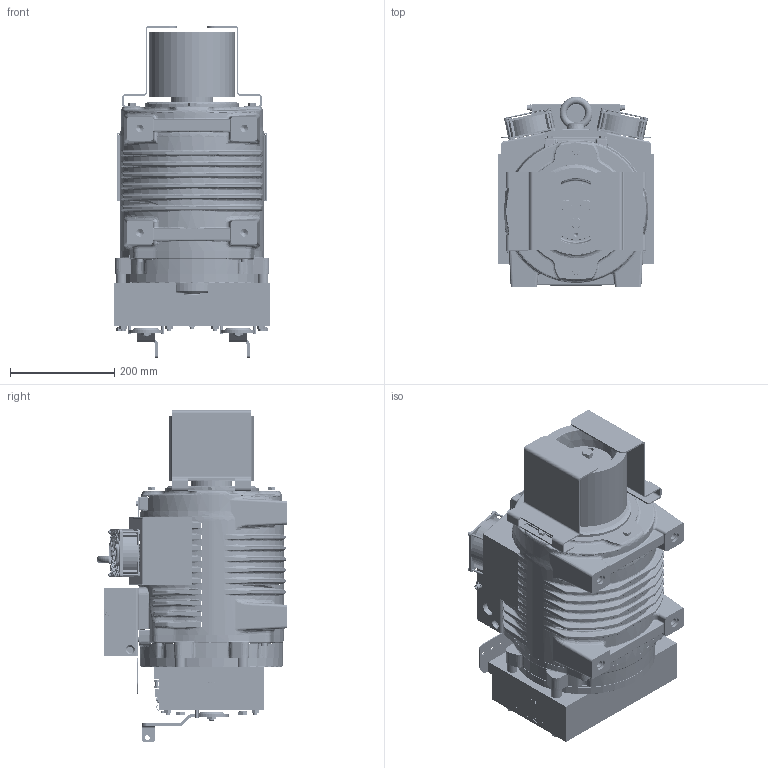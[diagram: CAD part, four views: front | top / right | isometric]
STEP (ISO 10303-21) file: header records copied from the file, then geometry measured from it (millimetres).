
FILE_DESCRIPTION((''),'2;1');
FILE_NAME('00366577_ASM','2023-06-05T12:19:07',('AsgharM'),('Sicor spa'),'CREO PARAMETRIC BY PTC INC, 2022164','CREO PARAMETRIC BY PTC INC, 2022164','');
FILE_SCHEMA(('CONFIG_CONTROL_DESIGN'));
Products named in the file (18): SG30_2023; _160_125; G__160; 00073486; GROWER_M12_GRO0002; TEM12X45_VIT0222; 00246001; M4_FTT_C; 00254619_ASM; 00254091; 00254090; 00254089_ASM; 00257271; 00042420_M4X50; TEM6X12_VIR0184; 00000263; 00257441_ASM; 00366577_ASM
Assembly tree (39 placements, depth 4):
  00366577_ASM
    SG30_2023
    _160_125
    G__160  x2
    00073486
    GROWER_M12_GRO0002  x3
    TEM12X45_VIT0222  x3
    00257441_ASM
      00254619_ASM
        00246001
        M4_FTT_C  x8
      00254089_ASM  x2
        00254091
        00254090
      00257271  x2
      00042420_M4X50  x8
      TEM6X12_VIR0184  x2
      00000263
Bounding box: 300.4 x 364.99 x 635.52 mm (x, y, z)
Volume: 2474082 mm3; surface area: 1842396 mm2
Topology: 36 solids, 289 shells, 4954 faces, 17123 edges, 12270 vertices
Faces by surface type: plane 1992, cylinder 1193, bspline 949, torus 403, cone 389, sphere 28
Entity records: 236397 total; most frequent: CARTESIAN_POINT 111356, ORIENTED_EDGE 24198, DIRECTION 23867, EDGE_CURVE 15617, VERTEX_POINT 11381, VECTOR 9097, LINE 9097, AXIS2_PLACEMENT_3D 7385
